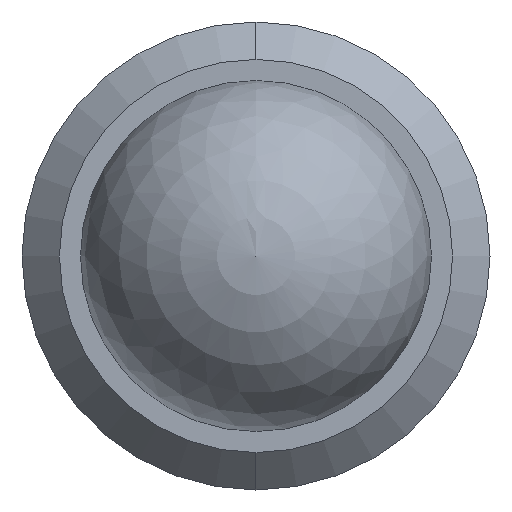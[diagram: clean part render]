
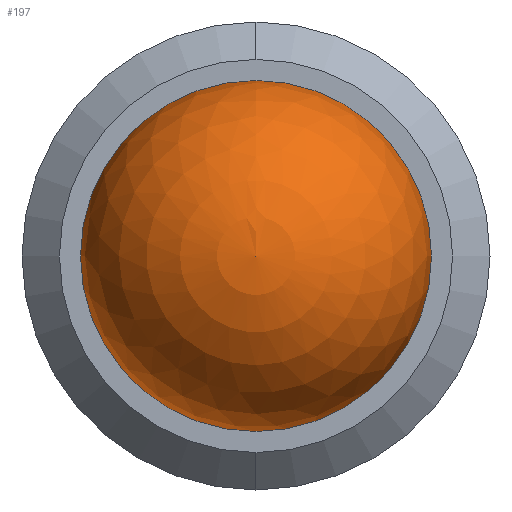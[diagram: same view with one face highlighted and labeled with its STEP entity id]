
A CAD part, left-side view. The second image highlights one B-rep face of the part: STEP entity #197.
In plain terms, the highlighted spherical face has radius 2.381 mm.
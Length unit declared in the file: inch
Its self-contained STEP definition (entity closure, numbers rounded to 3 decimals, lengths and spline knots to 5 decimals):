
#66 = CARTESIAN_POINT ( 'NONE',  ( 0., 0., 0. ) ) ;
#68 = AXIS2_PLACEMENT_3D ( 'NONE', #66, #163, #290 ) ;
#88 = CARTESIAN_POINT ( 'NONE',  ( 0., 0., 0. ) ) ;
#104 = DIRECTION ( 'NONE',  ( 1., 0., 0. ) ) ;
#130 = AXIS2_PLACEMENT_3D ( 'NONE', #88, #104, #364 ) ;
#138 = ORIENTED_EDGE ( 'NONE', *, *, #310, .F. ) ;
#150 = AXIS2_PLACEMENT_3D ( 'NONE', #297, #209, #418 ) ;
#163 = DIRECTION ( 'NONE',  ( -1., 0., 0. ) ) ;
#197 = ADVANCED_FACE ( 'NONE', ( #490 ), #488, .T. ) ;
#209 = DIRECTION ( 'NONE',  ( -1., 0., 0. ) ) ;
#245 = CARTESIAN_POINT ( 'NONE',  ( 0., -0.09375, 0. ) ) ;
#275 = VERTEX_POINT ( 'NONE', #245 ) ;
#279 = VERTEX_POINT ( 'NONE', #607 ) ;
#290 = DIRECTION ( 'NONE',  ( 0., 0., 1. ) ) ;
#297 = CARTESIAN_POINT ( 'NONE',  ( 0., 0., 0. ) ) ;
#304 = EDGE_CURVE ( 'NONE', #279, #275, #436, .T. ) ;
#310 = EDGE_CURVE ( 'NONE', #279, #275, #463, .T. ) ;
#341 = EDGE_LOOP ( 'NONE', ( #138, #605 ) ) ;
#364 = DIRECTION ( 'NONE',  ( 0., 0., -1. ) ) ;
#418 = DIRECTION ( 'NONE',  ( 0., 0., 1. ) ) ;
#436 = CIRCLE ( 'NONE', #68, 0.09375 ) ;
#463 = CIRCLE ( 'NONE', #130, 0.09375 ) ;
#488 = SPHERICAL_SURFACE ( 'NONE', #150, 0.09375 ) ;
#490 = FACE_OUTER_BOUND ( 'NONE', #341, .T. ) ;
#605 = ORIENTED_EDGE ( 'NONE', *, *, #304, .T. ) ;
#607 = CARTESIAN_POINT ( 'NONE',  ( 0., 0.09375, 0. ) ) ;
